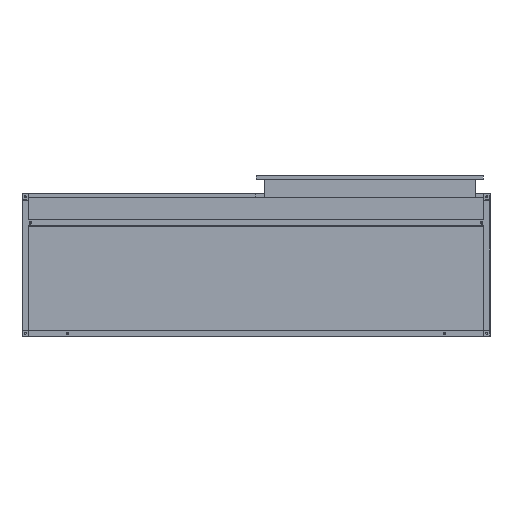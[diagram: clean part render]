
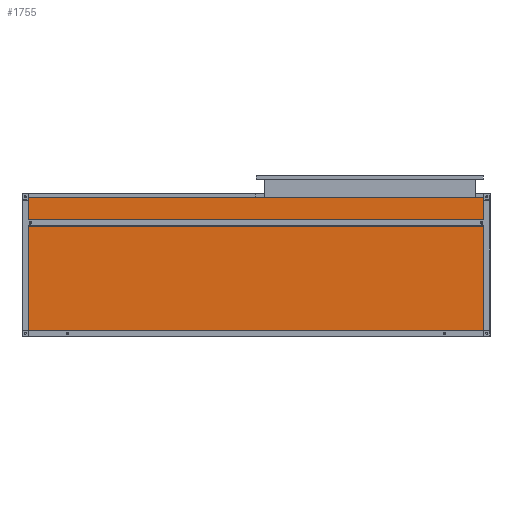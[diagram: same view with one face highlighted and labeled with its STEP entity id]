
A CAD part, front view. The second image highlights one B-rep face of the part: STEP entity #1755.
In plain terms, the highlighted planar face has unit normal (0, -1, 0).
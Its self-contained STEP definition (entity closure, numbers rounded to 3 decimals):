
#31 = EDGE_CURVE ( 'NONE', #6386, #1866, #5547, .T. ) ;
#87 = AXIS2_PLACEMENT_3D ( 'NONE', #3851, #5611, #554 ) ;
#200 = VECTOR ( 'NONE', #4846, 1000. ) ;
#490 = DIRECTION ( 'NONE',  ( -1., 0., 0. ) ) ;
#554 = DIRECTION ( 'NONE',  ( 0., 0., 1. ) ) ;
#598 = EDGE_CURVE ( 'NONE', #3205, #6441, #5956, .T. ) ;
#770 = CARTESIAN_POINT ( 'NONE',  ( 875., -250., 0. ) ) ;
#802 = ORIENTED_EDGE ( 'NONE', *, *, #31, .F. ) ;
#1621 = FACE_OUTER_BOUND ( 'NONE', #6240, .T. ) ;
#1755 = ADVANCED_FACE ( 'NONE', ( #1621 ), #3958, .F. ) ;
#1834 = VECTOR ( 'NONE', #490, 1000. ) ;
#1866 = VERTEX_POINT ( 'NONE', #2423 ) ;
#2367 = VECTOR ( 'NONE', #3313, 1000. ) ;
#2423 = CARTESIAN_POINT ( 'NONE',  ( -875., -250., 0. ) ) ;
#2589 = CARTESIAN_POINT ( 'NONE',  ( -875., -250., 535. ) ) ;
#2713 = ORIENTED_EDGE ( 'NONE', *, *, #598, .F. ) ;
#2747 = EDGE_CURVE ( 'NONE', #6441, #6386, #4284, .T. ) ;
#3057 = DIRECTION ( 'NONE',  ( 0., 0., -1. ) ) ;
#3205 = VERTEX_POINT ( 'NONE', #4232 ) ;
#3313 = DIRECTION ( 'NONE',  ( 0., 0., 1. ) ) ;
#3476 = ORIENTED_EDGE ( 'NONE', *, *, #4837, .F. ) ;
#3548 = ORIENTED_EDGE ( 'NONE', *, *, #2747, .F. ) ;
#3851 = CARTESIAN_POINT ( 'NONE',  ( 0., -250., 0. ) ) ;
#3852 = CARTESIAN_POINT ( 'NONE',  ( 875., -250., 535. ) ) ;
#3958 = PLANE ( 'NONE',  #87 ) ;
#3981 = LINE ( 'NONE', #4463, #2367 ) ;
#4232 = CARTESIAN_POINT ( 'NONE',  ( -875., -250., 535. ) ) ;
#4284 = LINE ( 'NONE', #770, #6235 ) ;
#4463 = CARTESIAN_POINT ( 'NONE',  ( -875., -250., 0. ) ) ;
#4837 = EDGE_CURVE ( 'NONE', #1866, #3205, #3981, .T. ) ;
#4846 = DIRECTION ( 'NONE',  ( 1., 0., 0. ) ) ;
#4913 = CARTESIAN_POINT ( 'NONE',  ( 875., -250., 0. ) ) ;
#5547 = LINE ( 'NONE', #7171, #1834 ) ;
#5611 = DIRECTION ( 'NONE',  ( 0., 1., 0. ) ) ;
#5956 = LINE ( 'NONE', #2589, #200 ) ;
#6235 = VECTOR ( 'NONE', #3057, 1000. ) ;
#6240 = EDGE_LOOP ( 'NONE', ( #3548, #2713, #3476, #802 ) ) ;
#6386 = VERTEX_POINT ( 'NONE', #4913 ) ;
#6441 = VERTEX_POINT ( 'NONE', #3852 ) ;
#7171 = CARTESIAN_POINT ( 'NONE',  ( -875., -250., 0. ) ) ;
